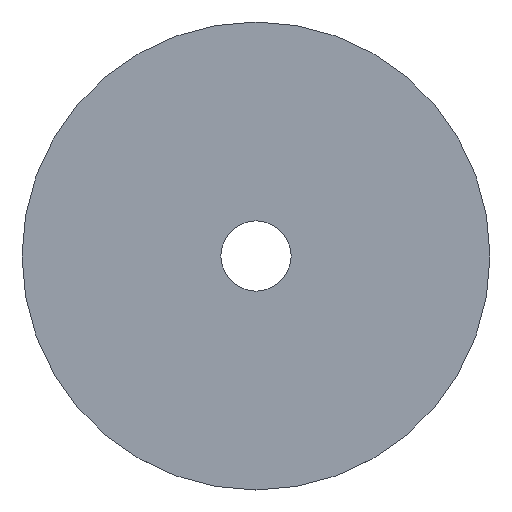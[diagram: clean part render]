
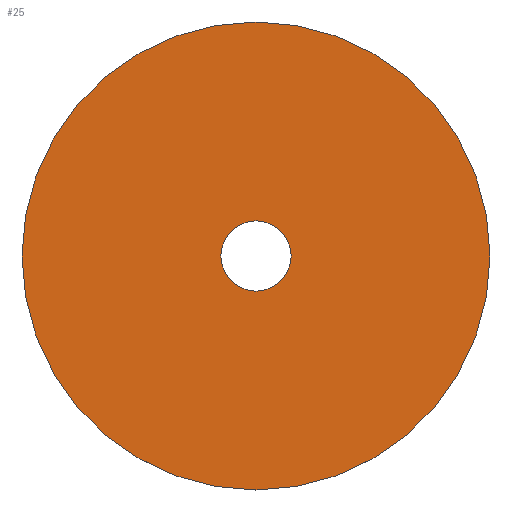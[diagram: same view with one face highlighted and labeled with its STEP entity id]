
A CAD part, top view. The second image highlights one B-rep face of the part: STEP entity #25.
In plain terms, the highlighted planar face has unit normal (0, 0, 1).
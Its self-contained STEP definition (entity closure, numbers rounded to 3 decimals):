
#9 = VERTEX_POINT ( 'NONE', #35 ) ;
#20 = CIRCLE ( 'NONE', #51, 100. ) ;
#22 = DIRECTION ( 'NONE',  ( 1., 0., 0. ) ) ;
#23 = AXIS2_PLACEMENT_3D ( 'NONE', #99, #91, #114 ) ;
#25 = ADVANCED_FACE ( 'NONE', ( #131, #185 ), #173, .T. ) ;
#33 = EDGE_CURVE ( 'NONE', #9, #46, #64, .T. ) ;
#35 = CARTESIAN_POINT ( 'NONE',  ( 100., 0., 2. ) ) ;
#36 = DIRECTION ( 'NONE',  ( 0., 0., 1. ) ) ;
#37 = ORIENTED_EDGE ( 'NONE', *, *, #67, .T. ) ;
#46 = VERTEX_POINT ( 'NONE', #189 ) ;
#51 = AXIS2_PLACEMENT_3D ( 'NONE', #57, #85, #61 ) ;
#53 = DIRECTION ( 'NONE',  ( 0., 0., 1. ) ) ;
#57 = CARTESIAN_POINT ( 'NONE',  ( 0., 0., 2. ) ) ;
#61 = DIRECTION ( 'NONE',  ( 1., 0., 0. ) ) ;
#64 = CIRCLE ( 'NONE', #23, 100. ) ;
#65 = ORIENTED_EDGE ( 'NONE', *, *, #188, .F. ) ;
#67 = EDGE_CURVE ( 'NONE', #46, #9, #20, .T. ) ;
#85 = DIRECTION ( 'NONE',  ( 0., 0., 1. ) ) ;
#89 = CIRCLE ( 'NONE', #112, 15. ) ;
#91 = DIRECTION ( 'NONE',  ( 0., 0., 1. ) ) ;
#95 = EDGE_LOOP ( 'NONE', ( #180, #65 ) ) ;
#97 = ORIENTED_EDGE ( 'NONE', *, *, #33, .T. ) ;
#99 = CARTESIAN_POINT ( 'NONE',  ( 0., 0., 2. ) ) ;
#111 = VERTEX_POINT ( 'NONE', #136 ) ;
#112 = AXIS2_PLACEMENT_3D ( 'NONE', #130, #171, #141 ) ;
#114 = DIRECTION ( 'NONE',  ( 1., 0., 0. ) ) ;
#115 = AXIS2_PLACEMENT_3D ( 'NONE', #145, #53, #22 ) ;
#117 = CARTESIAN_POINT ( 'NONE',  ( 0., 0., 2. ) ) ;
#124 = EDGE_LOOP ( 'NONE', ( #37, #97 ) ) ;
#130 = CARTESIAN_POINT ( 'NONE',  ( 0., 0., 2. ) ) ;
#131 = FACE_OUTER_BOUND ( 'NONE', #124, .T. ) ;
#136 = CARTESIAN_POINT ( 'NONE',  ( -15., 0., 2. ) ) ;
#138 = VERTEX_POINT ( 'NONE', #196 ) ;
#141 = DIRECTION ( 'NONE',  ( 1., 0., 0. ) ) ;
#145 = CARTESIAN_POINT ( 'NONE',  ( 0., 0., 2. ) ) ;
#150 = AXIS2_PLACEMENT_3D ( 'NONE', #117, #36, #158 ) ;
#155 = EDGE_CURVE ( 'NONE', #111, #138, #89, .T. ) ;
#158 = DIRECTION ( 'NONE',  ( 1., 0., 0. ) ) ;
#171 = DIRECTION ( 'NONE',  ( 0., 0., 1. ) ) ;
#173 = PLANE ( 'NONE',  #115 ) ;
#180 = ORIENTED_EDGE ( 'NONE', *, *, #155, .F. ) ;
#181 = CIRCLE ( 'NONE', #150, 15. ) ;
#185 = FACE_BOUND ( 'NONE', #95, .T. ) ;
#188 = EDGE_CURVE ( 'NONE', #138, #111, #181, .T. ) ;
#189 = CARTESIAN_POINT ( 'NONE',  ( -100., 0., 2. ) ) ;
#196 = CARTESIAN_POINT ( 'NONE',  ( 15., 0., 2. ) ) ;
